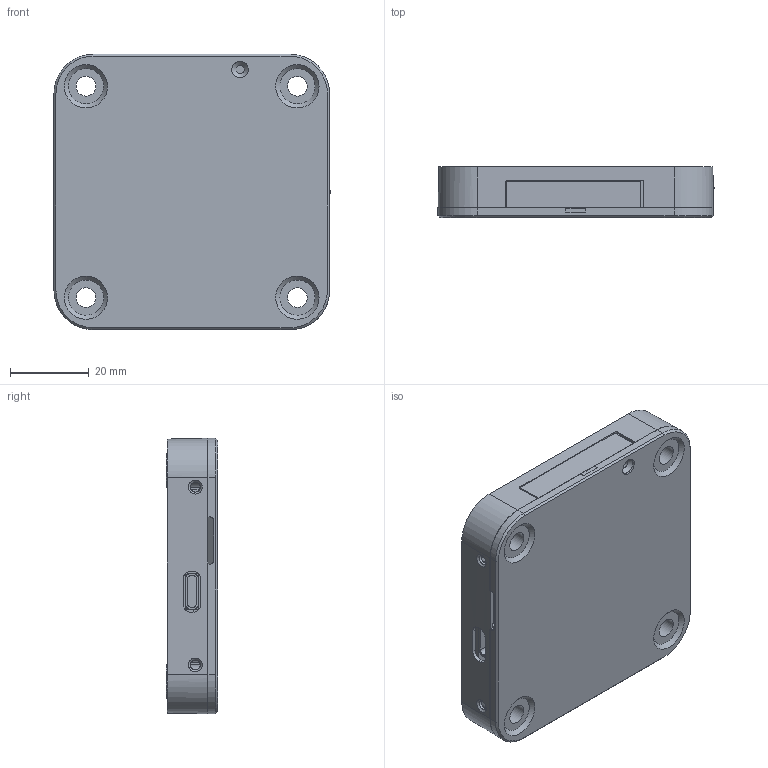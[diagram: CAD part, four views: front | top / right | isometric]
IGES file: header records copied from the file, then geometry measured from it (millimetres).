
Global section: file name: KM-1S_Driver; native system: unknown; preprocessor: unknown; author: unknown; organization: unknown; date: 20210426.201347; units: millimetre
Bounding box: 70.16 x 13.1 x 70.02 mm (x, y, z)
Volume: 27981.8 mm3; surface area: 41170.4 mm2
Topology: 12 solids, 14 shells, 800 faces, 2127 edges, 1391 vertices
Faces by surface type: bspline 800
